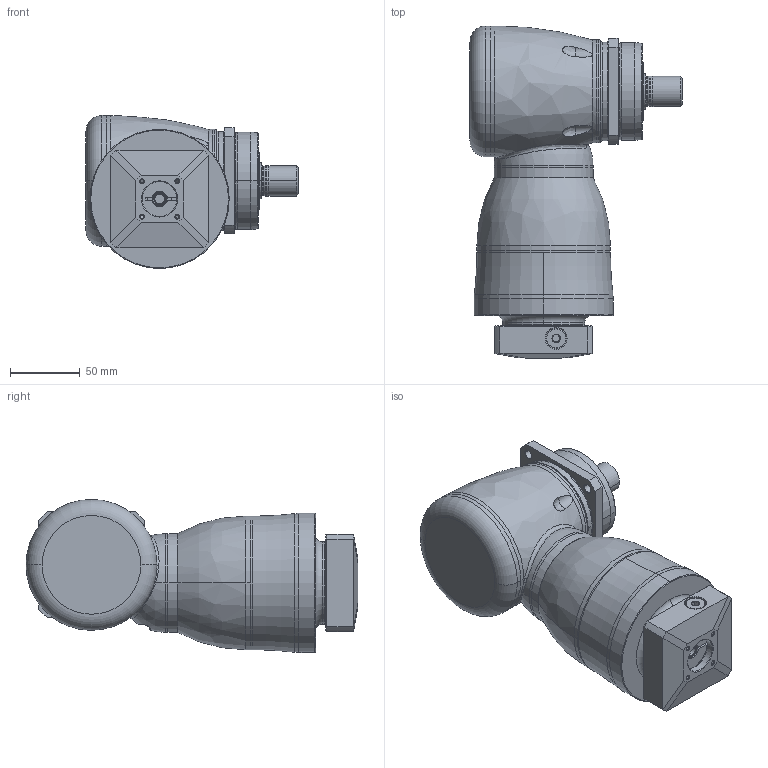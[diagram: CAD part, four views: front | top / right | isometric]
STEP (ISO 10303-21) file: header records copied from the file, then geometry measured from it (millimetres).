
FILE_DESCRIPTION((''),'2;1');
FILE_NAME('KF075_S3_2ST_8-P0409100101_ASM','2016-07-06T',('d01943'),(''),'PRO/ENGINEER BY PARAMETRIC TECHNOLOGY CORPORATION, 2008410','PRO/ENGINEER BY PARAMETRIC TECHNOLOGY CORPORATION, 2008410','');
FILE_SCHEMA(('CONFIG_CONTROL_DESIGN'));
Length unit declared in the file: millimetre
Products named in the file (11): P1008300002; P1804300001; P0915302001; P1315300001; P1007300001; P1317300001; P0409100101; P0503100005; P0912200001; 21711410012; KF075_S3_2ST_8-P0409100101_ASM
Assembly tree (10 placements, depth 2):
  KF075_S3_2ST_8-P0409100101_ASM
    P1008300002
    P1804300001
    P0915302001
    P1315300001
    P1007300001
    P1317300001
    P0409100101
    P0503100005
    P0912200001
    21711410012
Bounding box: 152.5 x 238.5 x 110 mm (x, y, z)
Volume: 1505010.9 mm3; surface area: 184958.7 mm2
Topology: 11 solids, 11 shells, 439 faces, 1013 edges, 604 vertices
Faces by surface type: cylinder 145, cone 106, plane 85, torus 66, bspline 35, sphere 2
Entity records: 19402 total; most frequent: CARTESIAN_POINT 9327, DIRECTION 2196, ORIENTED_EDGE 1978, EDGE_CURVE 989, AXIS2_PLACEMENT_3D 936, VERTEX_POINT 598, CIRCLE 511, EDGE_LOOP 497
